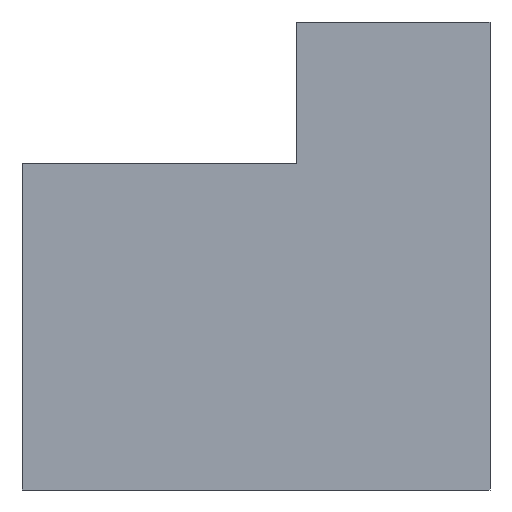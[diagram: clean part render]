
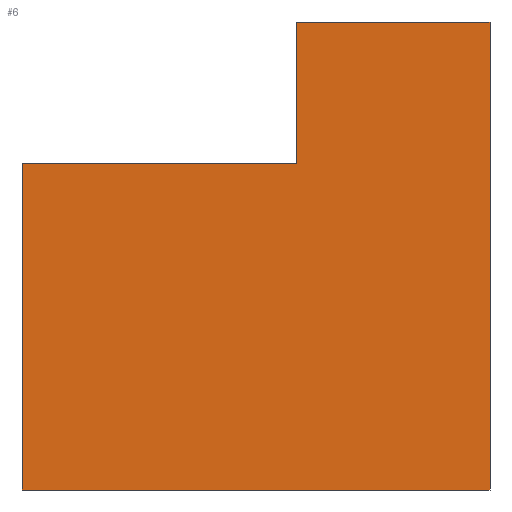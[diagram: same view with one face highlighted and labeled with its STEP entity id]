
A CAD part, front view. The second image highlights one B-rep face of the part: STEP entity #6.
In plain terms, the highlighted planar face has unit normal (0, -1, 0).
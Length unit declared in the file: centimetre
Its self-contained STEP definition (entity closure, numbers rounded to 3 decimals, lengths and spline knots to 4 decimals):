
#6 = ADVANCED_FACE ( 'NONE', ( #277 ), #514, .F. ) ;
#9 = EDGE_CURVE ( 'NONE', #316, #367, #270, .T. ) ;
#10 = AXIS2_PLACEMENT_3D ( 'NONE', #483, #112, #67 ) ;
#16 = ORIENTED_EDGE ( 'NONE', *, *, #261, .T. ) ;
#55 = VECTOR ( 'NONE', #102, 100. ) ;
#63 = DIRECTION ( 'NONE',  ( 0., 0., -1. ) ) ;
#67 = DIRECTION ( 'NONE',  ( 0., 0., 1. ) ) ;
#71 = LINE ( 'NONE', #392, #462 ) ;
#77 = DIRECTION ( 'NONE',  ( 1., 0., 0. ) ) ;
#80 = VECTOR ( 'NONE', #77, 100. ) ;
#89 = EDGE_CURVE ( 'NONE', #417, #316, #71, .T. ) ;
#102 = DIRECTION ( 'NONE',  ( 0., 0., 1. ) ) ;
#110 = EDGE_CURVE ( 'NONE', #503, #367, #516, .T. ) ;
#112 = DIRECTION ( 'NONE',  ( 0., 1., 0. ) ) ;
#124 = LINE ( 'NONE', #446, #80 ) ;
#137 = EDGE_CURVE ( 'NONE', #326, #503, #124, .T. ) ;
#143 = LINE ( 'NONE', #517, #55 ) ;
#183 = ORIENTED_EDGE ( 'NONE', *, *, #137, .F. ) ;
#188 = CARTESIAN_POINT ( 'NONE',  ( 1000., 0., 1000. ) ) ;
#218 = LINE ( 'NONE', #461, #248 ) ;
#248 = VECTOR ( 'NONE', #420, 100. ) ;
#251 = ORIENTED_EDGE ( 'NONE', *, *, #9, .T. ) ;
#259 = CARTESIAN_POINT ( 'NONE',  ( 585.7452, 0., 697.6283 ) ) ;
#261 = EDGE_CURVE ( 'NONE', #353, #417, #218, .T. ) ;
#262 = CARTESIAN_POINT ( 'NONE',  ( 1000., 0., 0. ) ) ;
#270 = LINE ( 'NONE', #520, #379 ) ;
#277 = FACE_OUTER_BOUND ( 'NONE', #422, .T. ) ;
#291 = CARTESIAN_POINT ( 'NONE',  ( 0., 0., 0. ) ) ;
#304 = ORIENTED_EDGE ( 'NONE', *, *, #515, .F. ) ;
#316 = VERTEX_POINT ( 'NONE', #291 ) ;
#326 = VERTEX_POINT ( 'NONE', #370 ) ;
#333 = ORIENTED_EDGE ( 'NONE', *, *, #89, .T. ) ;
#353 = VERTEX_POINT ( 'NONE', #259 ) ;
#367 = VERTEX_POINT ( 'NONE', #262 ) ;
#370 = CARTESIAN_POINT ( 'NONE',  ( 585.7452, 0., 1000. ) ) ;
#379 = VECTOR ( 'NONE', #390, 100. ) ;
#386 = ORIENTED_EDGE ( 'NONE', *, *, #110, .F. ) ;
#390 = DIRECTION ( 'NONE',  ( 1., 0., 0. ) ) ;
#392 = CARTESIAN_POINT ( 'NONE',  ( 0., 0., 1000. ) ) ;
#409 = CARTESIAN_POINT ( 'NONE',  ( 1000., 0., 1000. ) ) ;
#417 = VERTEX_POINT ( 'NONE', #500 ) ;
#420 = DIRECTION ( 'NONE',  ( -1., 0., 0. ) ) ;
#422 = EDGE_LOOP ( 'NONE', ( #304, #16, #333, #251, #386, #183 ) ) ;
#446 = CARTESIAN_POINT ( 'NONE',  ( 0., 0., 1000. ) ) ;
#449 = DIRECTION ( 'NONE',  ( 0., 0., -1. ) ) ;
#461 = CARTESIAN_POINT ( 'NONE',  ( 585.7452, 0., 697.6283 ) ) ;
#462 = VECTOR ( 'NONE', #63, 100. ) ;
#479 = VECTOR ( 'NONE', #449, 100. ) ;
#483 = CARTESIAN_POINT ( 'NONE',  ( 0., 0., 1000. ) ) ;
#500 = CARTESIAN_POINT ( 'NONE',  ( 0., 0., 697.6283 ) ) ;
#503 = VERTEX_POINT ( 'NONE', #188 ) ;
#514 = PLANE ( 'NONE',  #10 ) ;
#515 = EDGE_CURVE ( 'NONE', #353, #326, #143, .T. ) ;
#516 = LINE ( 'NONE', #409, #479 ) ;
#517 = CARTESIAN_POINT ( 'NONE',  ( 585.7452, 0., 697.6283 ) ) ;
#520 = CARTESIAN_POINT ( 'NONE',  ( 0., 0., 0. ) ) ;
